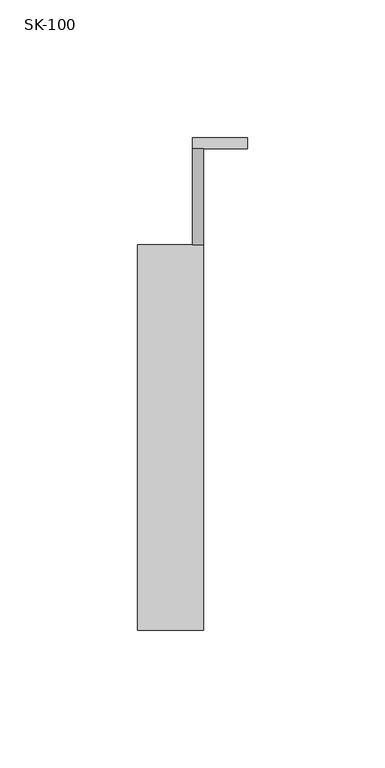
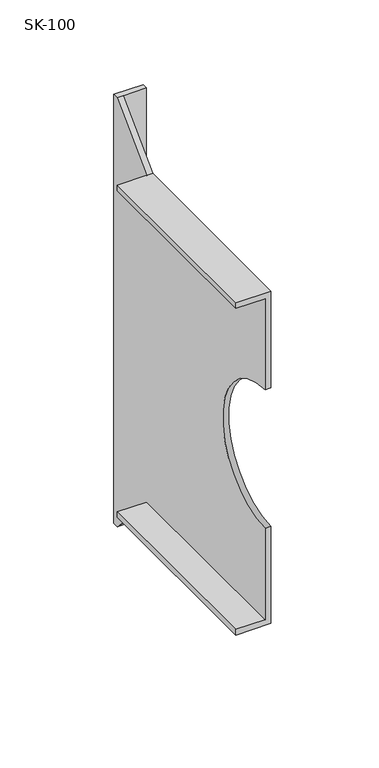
"""IFC4 building model written with IfcOpenShell, lengths in millimetres: duct fitting geometry, СВ_Кронштейн_Круглый_DN100-315_SK : SK-100."""

from ifc_helpers import new_model, si_unit, frame, origin, place, context, project, spatial, polyline, circle_curve, source, transform, mapped, element, save
from ifc_brep_helpers import plane_surface, revolved_surface, advanced_brep


def sk_100_6278c7a0(model_context):
    return source(origin(), model_context, "Body", "AdvancedBrep", [
        advanced_brep(
        [(4.0, 175.0, 155.0), (4.0, 140.0, 120.0), (4.0, 0.0, 120.0), (4.0, 0.0, 50.0), (4.0, 0.0, -50.0), (4.0, 0.0, -120.0), (4.0, 140.0, -120.0), (4.0, 175.0, -155.0), (0.0, 175.0, -155.0), (0.0, 140.0, -120.0), (0.0, 140.0, -116.0), (0.0, 0.0, -116.0), (0.0, 0.0, -50.0), (0.0, 0.0, 50.0), (0.0, 0.0, 116.0), (0.0, 140.0, 116.0), (0.0, 140.0, 120.0), (0.0, 175.0, 155.0), (0.0, 179.0, 155.0), (0.0, 179.0, -155.0), (-20.0, 140.0, 120.0), (-20.0, 0.0, 120.0), (-20.0, 0.0, 116.0), (-20.0, 0.0, -116.0), (-20.0, 0.0, -120.0), (-20.0, 140.0, -120.0), (-20.0, 140.0, -116.0), (-20.0, 140.0, 116.0), (20.0, 175.0, -155.0), (20.0, 179.0, -155.0), (20.0, 179.0, 155.0), (20.0, 175.0, 155.0)],
        [
            (0, 1),
            (1, 2),
            (2, 3),
            (3, 4, circle_curve(frame((4.0, 0.0, 0.0), z_axis=(-1.0, 0.0, 0.0), x_axis=(0.0, 1.0, 0.0)), 50.0)),
            (4, 5),
            (5, 6),
            (6, 7),
            (7, 0),
            (8, 9),
            (9, 10),
            (10, 11),
            (11, 12),
            (12, 13, circle_curve(frame((0.0, 0.0, 0.0), z_axis=(1.0, 0.0, 0.0), x_axis=(0.0, 1.0, 0.0)), 50.0)),
            (13, 14),
            (14, 15),
            (15, 16),
            (16, 17),
            (17, 18),
            (18, 19),
            (19, 8),
            (0, 17),
            (16, 1),
            (16, 20),
            (20, 21),
            (21, 2),
            (21, 22),
            (22, 14),
            (13, 3),
            (12, 4),
            (11, 23),
            (23, 24),
            (24, 5),
            (24, 25),
            (25, 9),
            (9, 6),
            (8, 7),
            (23, 26),
            (26, 25),
            (27, 22),
            (20, 27),
            (15, 27),
            (26, 10),
            (28, 29),
            (29, 30),
            (30, 31),
            (31, 28),
            (19, 29),
            (28, 7),
            (18, 30),
            (0, 31),
        ],
        [
            plane_surface(frame((4.0, 175.0, 155.0), z_axis=(1.0, 0.0, 0.0), x_axis=(0.0, 0.0, 1.0))),
            plane_surface(frame((0.0, 175.0, 155.0), z_axis=(-1.0, 0.0, 0.0), x_axis=(0.0, 0.0, -1.0))),
            plane_surface(frame((4.0, 175.0, 155.0), z_axis=(0.0, -0.7071067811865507, 0.7071067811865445), x_axis=(-1.0, 0.0, 0.0))),
            plane_surface(frame((4.0, 140.0, 120.0), z_axis=(0.0, 0.0, 1.0), x_axis=(-1.0, 0.0, 0.0))),
            plane_surface(frame((4.0, 0.0, 120.0), z_axis=(0.0, -1.0, 0.0), x_axis=(-1.0, 0.0, 0.0))),
            revolved_surface(polyline([(0.0, 50.0, 0.0), (4.0, 50.0, 0.0)]), (0.0, 0.0, 0.0), (-1.0, 0.0, 0.0)),
            plane_surface(frame((4.0, 0.0, -50.0), z_axis=(0.0, -1.0, 0.0), x_axis=(-1.0, 0.0, 0.0))),
            plane_surface(frame((4.0, 0.0, -120.0), z_axis=(0.0, 0.0, -1.0), x_axis=(-1.0, 0.0, 0.0))),
            plane_surface(frame((4.0, 140.0, -120.0), z_axis=(0.0, -0.707106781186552, -0.7071067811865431), x_axis=(-1.0, 0.0, 0.0))),
            plane_surface(frame((-20.0, 140.0, 120.0), z_axis=(-1.0, 0.0, 0.0), x_axis=(0.0, 0.0, -1.0))),
            plane_surface(frame((0.0, 140.0, 116.0), z_axis=(0.0, 1.0, 0.0), x_axis=(-1.0, 0.0, 0.0))),
            plane_surface(frame((0.0, 0.0, 116.0), z_axis=(0.0, 0.0, -1.0), x_axis=(-1.0, 0.0, 0.0))),
            plane_surface(frame((0.0, 140.0, -120.0), z_axis=(0.0, 1.0, 0.0), x_axis=(-1.0, 0.0, 0.0))),
            plane_surface(frame((0.0, 140.0, -116.0), z_axis=(0.0, 0.0, 1.0), x_axis=(-1.0, 0.0, 0.0))),
            plane_surface(frame((20.0, 175.0, -155.0), z_axis=(1.0, 0.0, 0.0), x_axis=(0.0, 1.0, 0.0))),
            plane_surface(frame((20.0, 175.0, -155.0), z_axis=(0.0, 0.0, -1.0), x_axis=(-1.0, 0.0, 0.0))),
            plane_surface(frame((20.0, 179.0, -155.0), z_axis=(0.0, 1.0, 0.0), x_axis=(-1.0, 0.0, 0.0))),
            plane_surface(frame((20.0, 179.0, 155.0), z_axis=(0.0, 0.0, 1.0), x_axis=(-1.0, 0.0, 0.0))),
            plane_surface(frame((20.0, 175.0, 155.0), z_axis=(0.0, -1.0, 0.0), x_axis=(-1.0, 0.0, 0.0))),
        ],
        [
            (0, [[1, 2, 3, 4, 5, 6, 7, 8]]),
            (1, [[9, 10, 11, 12, 13, 14, 15, 16, 17, 18, 19, 20]]),
            (2, [[-1, 21, -17, 22]]),
            (3, [[-2, -22, 23, 24, 25]]),
            (4, [[-3, -25, 26, 27, -14, 28]]),
            (5, [[-4, -28, -13, 29]]),
            (6, [[-5, -29, -12, 30, 31, 32]]),
            (7, [[-6, -32, 33, 34, 35]]),
            (8, [[-7, -35, -9, 36]]),
            (9, [[-33, -31, 37, 38]]),
            (9, [[39, -26, -24, 40]]),
            (10, [[-40, -23, -16, 41]]),
            (11, [[-39, -41, -15, -27]]),
            (12, [[-38, 42, -10, -34]]),
            (13, [[-37, -30, -11, -42]]),
            (14, [[43, 44, 45, 46]]),
            (15, [[-20, 47, -43, 48, -36]]),
            (16, [[-19, 49, -44, -47]]),
            (17, [[-18, -21, 50, -45, -49]]),
            (18, [[-46, -50, -8, -48]]),
        ],
    ),
    ])


if __name__ == "__main__":
    model = new_model("IFC4")
    model_context = context("Model", 3, world=origin())
    ifc_project = project(units=[si_unit("LENGTHUNIT", "METRE", prefix="MILLI")], contexts=[model_context])
    site = spatial("IfcSite", under=ifc_project)
    building = spatial("IfcBuilding", under=site)
    placement = place(None, origin())
    sk_100_shape = sk_100_6278c7a0(model_context)
    element("IfcDuctFitting", 1, ObjectType="СВ_Кронштейн_Круглый_DN100-315_SK : SK-100", at=placement, inside=building, context=model_context, shape_type="MappedRepresentation", body=[
        mapped(sk_100_shape, transform((0.0, 0.0, 0.0), x_axis=(1.0, 0.0, 0.0), y_axis=(0.0, 1.0, 0.0), z_axis=(0.0, 0.0, 1.0))),
    ])
    save(model, "model.ifc")
